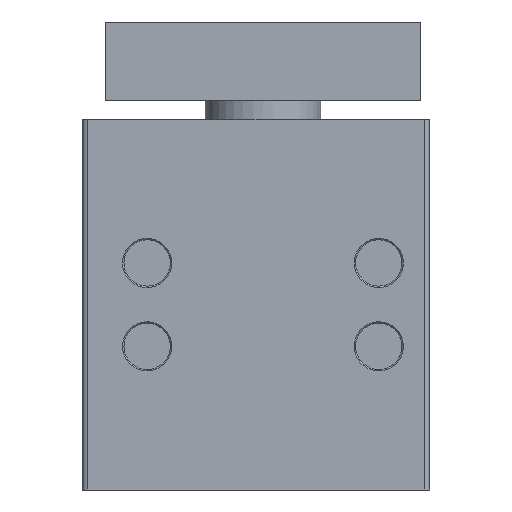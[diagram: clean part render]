
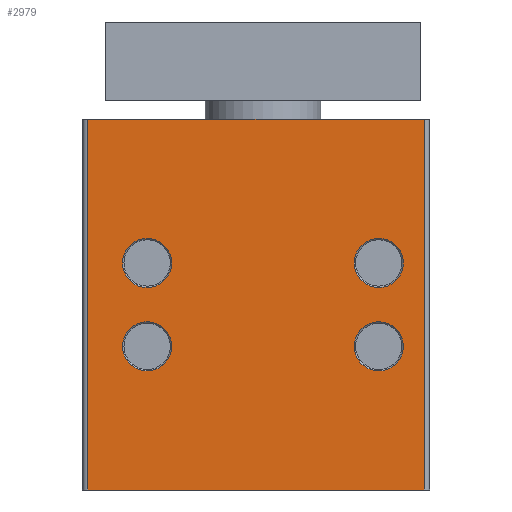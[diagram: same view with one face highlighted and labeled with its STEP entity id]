
A CAD part, front view. The second image highlights one B-rep face of the part: STEP entity #2979.
In plain terms, the highlighted planar face has unit normal (0, -1, 0).
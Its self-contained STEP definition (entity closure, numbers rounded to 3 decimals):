
#1375=CARTESIAN_POINT('',(34.8,-80.0,-84.0));
#1376=VERTEX_POINT('',#1375);
#1384=CARTESIAN_POINT('',(-37.8,-80.0,-84.0));
#1385=VERTEX_POINT('',#1384);
#1386=CARTESIAN_POINT('',(-37.8,-80.0,-84.0));
#1387=DIRECTION('',(1.0,0.0,0.0));
#1388=VECTOR('',#1387,72.6);
#1389=LINE('',#1386,#1388);
#1390=EDGE_CURVE('',#1385,#1376,#1389,.T.);
#1934=CARTESIAN_POINT('',(-37.8,-80.0,-4.));
#1935=VERTEX_POINT('',#1934);
#1943=CARTESIAN_POINT('',(34.8,-80.0,-4.));
#1944=VERTEX_POINT('',#1943);
#1945=CARTESIAN_POINT('',(34.8,-80.0,-4.));
#1946=DIRECTION('',(-1.0,0.0,0.0));
#1947=VECTOR('',#1946,72.6);
#1948=LINE('',#1945,#1947);
#1949=EDGE_CURVE('',#1944,#1935,#1948,.T.);
#2910=CARTESIAN_POINT('',(-19.7,-80.0,-35.0));
#2911=VERTEX_POINT('',#2910);
#2912=CARTESIAN_POINT('',(-25.,-80.0,-35.0));
#2913=DIRECTION('',(0.0,-1.0,0.0));
#2914=DIRECTION('',(-1.0,0.0,0.0));
#2915=AXIS2_PLACEMENT_3D('',#2912,#2913,#2914);
#2916=CIRCLE('',#2915,5.3);
#2917=EDGE_CURVE('',#2911,#2911,#2916,.T.);
#2922=CARTESIAN_POINT('',(-37.8,-80.0,-4.));
#2923=DIRECTION('',(0.0,-1.0,0.0));
#2924=DIRECTION('',(0.0,0.0,-1.0));
#2925=AXIS2_PLACEMENT_3D('',#2922,#2923,#2924);
#2926=PLANE('',#2925);
#2927=ORIENTED_EDGE('',*,*,#1390,.T.);
#2928=CARTESIAN_POINT('',(34.8,-80.0,-4.));
#2929=DIRECTION('',(0.0,0.0,-1.0));
#2930=VECTOR('',#2929,80.0);
#2931=LINE('',#2928,#2930);
#2932=EDGE_CURVE('',#1944,#1376,#2931,.T.);
#2933=ORIENTED_EDGE('',*,*,#2932,.F.);
#2934=ORIENTED_EDGE('',*,*,#1949,.T.);
#2935=CARTESIAN_POINT('',(-37.8,-80.0,-4.));
#2936=DIRECTION('',(0.0,0.0,-1.0));
#2937=VECTOR('',#2936,80.0);
#2938=LINE('',#2935,#2937);
#2939=EDGE_CURVE('',#1935,#1385,#2938,.T.);
#2940=ORIENTED_EDGE('',*,*,#2939,.T.);
#2941=EDGE_LOOP('',(#2927,#2933,#2934,#2940));
#2942=FACE_OUTER_BOUND('',#2941,.T.);
#2943=CARTESIAN_POINT('',(-19.7,-80.0,-53.));
#2944=VERTEX_POINT('',#2943);
#2945=CARTESIAN_POINT('',(-25.,-80.0,-53.));
#2946=DIRECTION('',(0.0,-1.0,0.0));
#2947=DIRECTION('',(-1.0,0.0,0.0));
#2948=AXIS2_PLACEMENT_3D('',#2945,#2946,#2947);
#2949=CIRCLE('',#2948,5.3);
#2950=EDGE_CURVE('',#2944,#2944,#2949,.T.);
#2951=ORIENTED_EDGE('',*,*,#2950,.F.);
#2952=EDGE_LOOP('',(#2951));
#2953=FACE_BOUND('',#2952,.T.);
#2954=CARTESIAN_POINT('',(30.3,-80.0,-35.0));
#2955=VERTEX_POINT('',#2954);
#2956=CARTESIAN_POINT('',(25.,-80.0,-35.0));
#2957=DIRECTION('',(0.0,-1.0,0.0));
#2958=DIRECTION('',(-1.0,0.0,0.0));
#2959=AXIS2_PLACEMENT_3D('',#2956,#2957,#2958);
#2960=CIRCLE('',#2959,5.3);
#2961=EDGE_CURVE('',#2955,#2955,#2960,.T.);
#2962=ORIENTED_EDGE('',*,*,#2961,.F.);
#2963=EDGE_LOOP('',(#2962));
#2964=FACE_BOUND('',#2963,.T.);
#2965=CARTESIAN_POINT('',(30.3,-80.0,-53.));
#2966=VERTEX_POINT('',#2965);
#2967=CARTESIAN_POINT('',(25.,-80.0,-53.));
#2968=DIRECTION('',(0.0,-1.0,0.0));
#2969=DIRECTION('',(-1.0,0.0,0.0));
#2970=AXIS2_PLACEMENT_3D('',#2967,#2968,#2969);
#2971=CIRCLE('',#2970,5.3);
#2972=EDGE_CURVE('',#2966,#2966,#2971,.T.);
#2973=ORIENTED_EDGE('',*,*,#2972,.F.);
#2974=EDGE_LOOP('',(#2973));
#2975=FACE_BOUND('',#2974,.T.);
#2976=ORIENTED_EDGE('',*,*,#2917,.F.);
#2977=EDGE_LOOP('',(#2976));
#2978=FACE_BOUND('',#2977,.T.);
#2979=ADVANCED_FACE('',(#2942,#2953,#2964,#2975,#2978),#2926,.T.);
